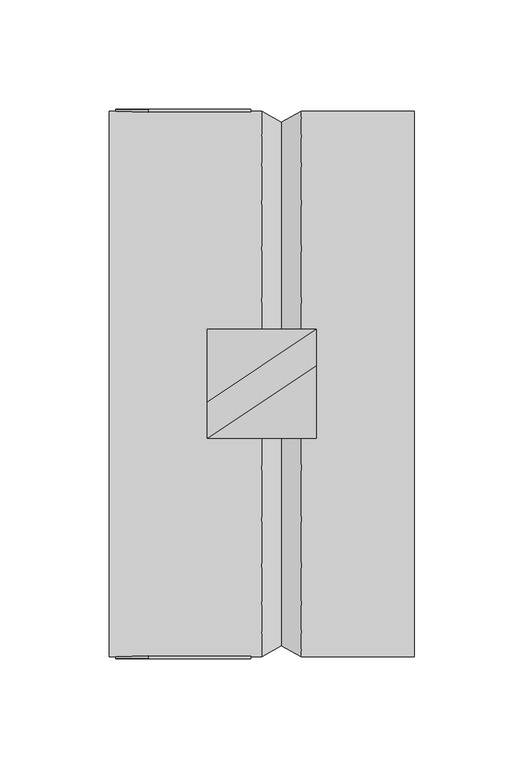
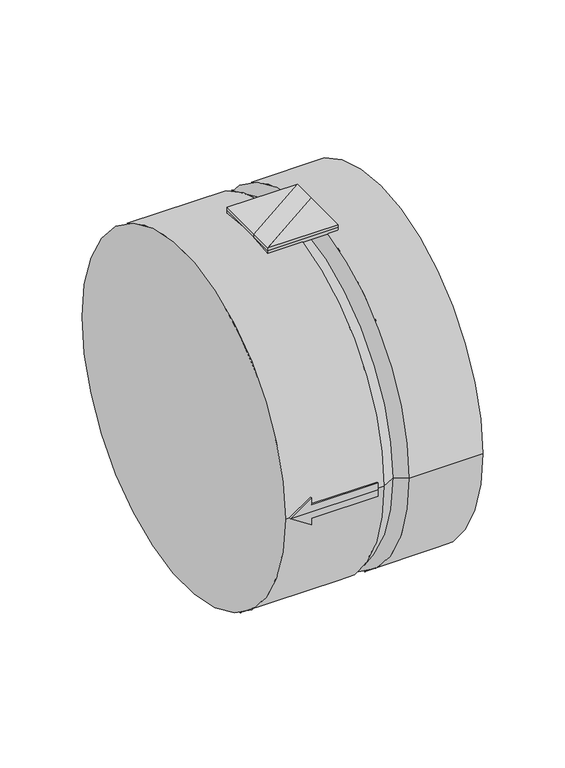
"""IFC4 building model written with IfcOpenShell, lengths in millimetres: damper geometry, KORF_Клапан_Обратный_Круглый_KOK : КОK 250."""

from ifc_helpers import new_model, si_unit, frame, origin, place, context, project, spatial, polyline, circle_curve, ellipse_curve, outline, extrude, source, transform, mapped, element, save
from ifc_brep_helpers import plane_surface, cylinder_surface, revolved_surface, advanced_brep


def damper_da60aa00(model_context):
    return source(origin(), model_context, "Body", "SolidModel", [
        extrude(outline(polyline([(95.0, 25.0), (95.0, 8.3333333), (45.0, -25.0), (45.0, -8.3333333), (95.0, 25.0)])), frame((0.0, 0.0, 125.0), z_axis=(0.0, 0.0, 1.0), x_axis=(1.0, 0.0, 0.0)), (0.0, 0.0, 1.0), 2.0),
        extrude(outline(polyline([(95.0, 25.0), (45.0, -8.3333333), (45.0, 25.0), (95.0, 25.0)])), frame((0.0, 0.0, 125.0), z_axis=(0.0, 0.0, 1.0), x_axis=(1.0, 0.0, 0.0)), (0.0, 0.0, 1.0), 2.0),
        extrude(outline(polyline([(45.0, -25.0), (95.0, 8.3333333), (95.0, -25.0), (45.0, -25.0)])), frame((0.0, 0.0, 125.0), z_axis=(0.0, 0.0, 1.0), x_axis=(1.0, 0.0, 0.0)), (0.0, 0.0, 1.0), 2.0),
        advanced_brep(
        [(18.0, -124.5993579, 10.0), (3.0, -125.0, 0.0), (3.0, -126.0, 0.0), (18.0, -125.6025477, 10.0), (18.0, -124.5993579, -10.0), (18.0, -125.6025477, -10.0), (18.0, -124.89996, -5.0), (18.0, -125.9007546, -5.0), (65.0, -124.89996, -5.0), (65.0, -125.9007546, -5.0), (65.0, -125.0, 0.0), (65.0, -124.89996, 5.0), (65.0, -125.9007546, 5.0), (65.0, -126.0, 0.0), (18.0, -124.89996, 5.0), (18.0, -125.9007546, 5.0)],
        [
            (0, 1, ellipse_curve(frame((3.0, 0.0, 0.0), z_axis=(0.5547001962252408, 0.0, -0.832050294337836), x_axis=(0.8320502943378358, 0.0, 0.5547001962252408)), 225.3469547, 125.0)),
            (1, 2),
            (2, 3, ellipse_curve(frame((3.0, 0.0, 0.0), z_axis=(-0.5547001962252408, 0.0, 0.832050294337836), x_axis=(-0.8320502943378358, 0.0, -0.5547001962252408)), 227.1497304, 126.0)),
            (3, 0),
            (1, 4, ellipse_curve(frame((3.0, 0.0, 0.0), z_axis=(0.5547001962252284, 0.0, 0.8320502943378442), x_axis=(0.8320502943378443, 0.0, -0.5547001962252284)), 225.3469547, 125.0)),
            (4, 5),
            (5, 2, ellipse_curve(frame((3.0, 0.0, 0.0), z_axis=(-0.5547001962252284, 0.0, -0.8320502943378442), x_axis=(-0.8320502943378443, 0.0, 0.5547001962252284)), 227.1497304, 126.0)),
            (4, 6, circle_curve(frame((18.0, 0.0, 0.0), z_axis=(-1.0, 0.0, 0.0), x_axis=(0.0, 1.0, 0.0)), 125.0)),
            (6, 7),
            (7, 5, circle_curve(frame((18.0, 0.0, 0.0), z_axis=(1.0, 0.0, 0.0), x_axis=(0.0, 1.0, 0.0)), 126.0)),
            (6, 8),
            (8, 9),
            (9, 7),
            (8, 10, circle_curve(frame((65.0, 0.0, 0.0), z_axis=(-1.0, 0.0, 0.0), x_axis=(0.0, 1.0, 0.0)), 125.0)),
            (10, 11, circle_curve(frame((65.0, 0.0, 0.0), z_axis=(-1.0, 0.0, 0.0), x_axis=(0.0, 1.0, 0.0)), 125.0)),
            (11, 12),
            (12, 13, circle_curve(frame((65.0, 0.0, 0.0), z_axis=(1.0, 0.0, 0.0), x_axis=(0.0, 1.0, 0.0)), 126.0)),
            (13, 9, circle_curve(frame((65.0, 0.0, 0.0), z_axis=(1.0, 0.0, 0.0), x_axis=(0.0, 1.0, 0.0)), 126.0)),
            (11, 14),
            (14, 15),
            (15, 12),
            (14, 0, circle_curve(frame((18.0, 0.0, 0.0), z_axis=(-1.0, 0.0, 0.0), x_axis=(0.0, 1.0, 0.0)), 125.0)),
            (3, 15, circle_curve(frame((18.0, 0.0, 0.0), z_axis=(1.0, 0.0, 0.0), x_axis=(0.0, 1.0, 0.0)), 126.0)),
            (1, 10),
            (2, 13),
        ],
        [
            plane_surface(frame((18.0, -127.0, 10.0), z_axis=(-0.5547001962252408, 0.0, 0.832050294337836), x_axis=(0.0, 1.0, 0.0))),
            plane_surface(frame((3.0, -127.0, 0.0), z_axis=(-0.5547001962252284, 0.0, -0.8320502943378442), x_axis=(0.0, 1.0, 0.0))),
            plane_surface(frame((18.0, -127.0, -10.0), z_axis=(1.0, 0.0, 0.0), x_axis=(0.0, 1.0, 0.0))),
            plane_surface(frame((18.0, -127.0, -5.0), z_axis=(0.0, 0.0, -1.0), x_axis=(0.0, 1.0, 0.0))),
            plane_surface(frame((65.0, -127.0, -5.0), z_axis=(1.0, 0.0, 0.0), x_axis=(0.0, 1.0, 0.0))),
            plane_surface(frame((65.0, -127.0, 5.0), z_axis=(0.0, 0.0, 1.0), x_axis=(0.0, 1.0, 0.0))),
            plane_surface(frame((18.0, -127.0, 5.0), z_axis=(1.0, 0.0, 0.0), x_axis=(0.0, 1.0, 0.0))),
            revolved_surface(polyline([(190.49999998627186, 125.0, 0.0), (-184.49999998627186, 125.0, 0.0)]), (0.0, 0.0, 0.0), (1.0, 0.0, 0.0)),
            revolved_surface(polyline([(190.49999998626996, 125.0, 0.0), (-184.49999998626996, 125.0, 0.0)]), (0.0, 0.0, 0.0), (1.0, 0.0, 0.0)),
            cylinder_surface(frame((0.0, 0.0, 0.0), z_axis=(-1.0, 0.0, 0.0), x_axis=(0.0, 1.0, 0.0)), 126.0),
        ],
        [
            (0, [[1, 2, 3, 4]]),
            (1, [[5, 6, 7, -2]]),
            (2, [[8, 9, 10, -6]]),
            (3, [[11, 12, 13, -9]]),
            (4, [[14, 15, 16, 17, 18, -12]]),
            (5, [[19, 20, 21, -16]]),
            (6, [[22, -4, 23, -20]]),
            (7, [[24, -14, -11, -8, -5]]),
            (8, [[-24, -1, -22, -19, -15]]),
            (9, [[25, -17, -21, -23, -3]]),
            (9, [[-25, -7, -10, -13, -18]]),
        ],
    ),
        advanced_brep(
        [(3.0, 125.0, 0.0), (18.0, 124.5993579, 10.0), (18.0, 125.6025477, 10.0), (3.0, 126.0, 0.0), (18.0, 124.5993579, -10.0), (18.0, 125.6025477, -10.0), (18.0, 124.89996, -5.0), (18.0, 125.9007546, -5.0), (65.0, 124.89996, -5.0), (65.0, 125.9007546, -5.0), (65.0, 125.0, 0.0), (65.0, 126.0, 0.0), (65.0, 125.9007546, 5.0), (65.0, 124.89996, 5.0), (18.0, 124.89996, 5.0), (18.0, 125.9007546, 5.0)],
        [
            (0, 1, ellipse_curve(frame((3.0, 0.0, 0.0), z_axis=(0.5547001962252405, 0.0, -0.8320502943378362), x_axis=(0.8320502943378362, 0.0, 0.5547001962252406)), 225.3469547, 125.0)),
            (1, 2),
            (2, 3, ellipse_curve(frame((3.0, 0.0, 0.0), z_axis=(-0.5547001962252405, 0.0, 0.8320502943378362), x_axis=(-0.8320502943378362, 0.0, -0.5547001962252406)), 227.1497304, 126.0)),
            (3, 0),
            (4, 0, ellipse_curve(frame((3.0, 0.0, 0.0), z_axis=(0.554700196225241, 0.0, 0.8320502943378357), x_axis=(0.8320502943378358, 0.0, -0.554700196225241)), 225.3469547, 125.0)),
            (3, 5, ellipse_curve(frame((3.0, 0.0, 0.0), z_axis=(-0.554700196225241, 0.0, -0.8320502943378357), x_axis=(-0.8320502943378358, 0.0, 0.554700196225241)), 227.1497304, 126.0)),
            (5, 4),
            (6, 4, circle_curve(frame((18.0, 0.0, 0.0), z_axis=(-1.0, 0.0, 0.0), x_axis=(0.0, 1.0, 0.0)), 125.0)),
            (5, 7, circle_curve(frame((18.0, 0.0, 0.0), z_axis=(1.0, 0.0, 0.0), x_axis=(0.0, 1.0, 0.0)), 126.0)),
            (7, 6),
            (8, 6),
            (7, 9),
            (9, 8),
            (10, 8, circle_curve(frame((65.0, 0.0, 0.0), z_axis=(-1.0, 0.0, 0.0), x_axis=(0.0, 1.0, 0.0)), 125.0)),
            (9, 11, circle_curve(frame((65.0, 0.0, 0.0), z_axis=(1.0, 0.0, 0.0), x_axis=(0.0, 1.0, 0.0)), 126.0)),
            (11, 12, circle_curve(frame((65.0, 0.0, 0.0), z_axis=(1.0, 0.0, 0.0), x_axis=(0.0, 1.0, 0.0)), 126.0)),
            (12, 13),
            (13, 10, circle_curve(frame((65.0, 0.0, 0.0), z_axis=(-1.0, 0.0, 0.0), x_axis=(0.0, 1.0, 0.0)), 125.0)),
            (14, 13),
            (12, 15),
            (15, 14),
            (1, 14, circle_curve(frame((18.0, 0.0, 0.0), z_axis=(-1.0, 0.0, 0.0), x_axis=(0.0, 1.0, 0.0)), 125.0)),
            (15, 2, circle_curve(frame((18.0, 0.0, 0.0), z_axis=(1.0, 0.0, 0.0), x_axis=(0.0, 1.0, 0.0)), 126.0)),
            (10, 0),
            (11, 3),
        ],
        [
            plane_surface(frame((18.0, 123.0, 10.0), z_axis=(-0.5547001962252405, 0.0, 0.8320502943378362), x_axis=(0.0, 1.0, 0.0))),
            plane_surface(frame((3.0, 123.0, 0.0), z_axis=(-0.554700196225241, 0.0, -0.8320502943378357), x_axis=(0.0, 1.0, 0.0))),
            plane_surface(frame((18.0, 123.0, -10.0), z_axis=(1.0, 0.0, 0.0), x_axis=(0.0, 1.0, 0.0))),
            plane_surface(frame((18.0, 123.0, -5.0), z_axis=(0.0, 0.0, -1.0), x_axis=(0.0, 1.0, 0.0))),
            plane_surface(frame((65.0, 123.0, -5.0), z_axis=(1.0, 0.0, 0.0), x_axis=(0.0, 1.0, 0.0))),
            plane_surface(frame((65.0, 123.0, 5.0), z_axis=(0.0, 0.0, 1.0), x_axis=(0.0, 1.0, 0.0))),
            plane_surface(frame((18.0, 123.0, 5.0), z_axis=(1.0, 0.0, 0.0), x_axis=(0.0, 1.0, 0.0))),
            revolved_surface(polyline([(190.49999998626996, 125.0, 0.0), (-184.49999998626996, 125.0, 0.0)]), (0.0, 0.0, 0.0), (1.0, 0.0, 0.0)),
            revolved_surface(polyline([(190.49999998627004, 125.0, 0.0), (-184.49999998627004, 125.0, 0.0)]), (0.0, 0.0, 0.0), (1.0, 0.0, 0.0)),
            cylinder_surface(frame((0.0, 0.0, 0.0), z_axis=(-1.0, 0.0, 0.0), x_axis=(0.0, 1.0, 0.0)), 126.0),
        ],
        [
            (0, [[1, 2, 3, 4]]),
            (1, [[5, -4, 6, 7]]),
            (2, [[8, -7, 9, 10]]),
            (3, [[11, -10, 12, 13]]),
            (4, [[14, -13, 15, 16, 17, 18]]),
            (5, [[19, -17, 20, 21]]),
            (6, [[22, -21, 23, -2]]),
            (7, [[24, -5, -8, -11, -14]]),
            (8, [[-24, -18, -19, -22, -1]]),
            (9, [[25, -3, -23, -20, -16]]),
            (9, [[-25, -15, -12, -9, -6]]),
        ],
    ),
        advanced_brep(
        [(140.0, -125.0, 0.0), (140.0, 125.0, 0.0), (0.0, -125.0, 0.0), (0.0, 125.0, 0.0), (88.0, -125.0, 0.0), (88.0, 125.0, 0.0), (70.0, 125.0, 0.0), (70.0, -125.0, 0.0), (79.0, 120.0, 0.0), (79.0, -120.0, 0.0)],
        [
            (0, 1, circle_curve(frame((140.0, 0.0, 0.0), z_axis=(1.0, 0.0, 0.0), x_axis=(0.0, 1.0, 0.0)), 125.0)),
            (1, 0, circle_curve(frame((140.0, 0.0, 0.0), z_axis=(1.0, 0.0, 0.0), x_axis=(0.0, 1.0, 0.0)), 125.0)),
            (2, 3, circle_curve(frame((0.0, 0.0, 0.0), z_axis=(-1.0, 0.0, 0.0), x_axis=(0.0, 1.0, 0.0)), 125.0)),
            (3, 2, circle_curve(frame((0.0, 0.0, 0.0), z_axis=(-1.0, 0.0, 0.0), x_axis=(0.0, 1.0, 0.0)), 125.0)),
            (0, 4),
            (4, 5, circle_curve(frame((88.0, 0.0, 0.0), z_axis=(1.0, 0.0, 0.0), x_axis=(0.0, 1.0, 0.0)), 125.0)),
            (5, 1),
            (3, 6),
            (6, 7, circle_curve(frame((70.0, 0.0, 0.0), z_axis=(-1.0, 0.0, 0.0), x_axis=(0.0, 1.0, 0.0)), 125.0)),
            (7, 2),
            (5, 4, circle_curve(frame((88.0, 0.0, 0.0), z_axis=(1.0, 0.0, 0.0), x_axis=(0.0, 1.0, 0.0)), 125.0)),
            (7, 6, circle_curve(frame((70.0, 0.0, 0.0), z_axis=(-1.0, 0.0, 0.0), x_axis=(0.0, 1.0, 0.0)), 125.0)),
            (6, 8),
            (8, 9, circle_curve(frame((79.0, 0.0, 0.0), z_axis=(-1.0, 0.0, 0.0), x_axis=(0.0, -1.0, 0.0)), 120.0)),
            (9, 7),
            (8, 5),
            (4, 9),
            (9, 8, circle_curve(frame((79.0, 0.0, 0.0), z_axis=(-1.0, 0.0, 0.0), x_axis=(0.0, 1.0, 0.0)), 120.0)),
        ],
        [
            plane_surface(frame((140.0, 125.0, 0.0), z_axis=(1.0, 0.0, 0.0), x_axis=(0.0, 0.0, 1.0))),
            plane_surface(frame((0.0, 125.0, 0.0), z_axis=(-1.0, 0.0, 0.0), x_axis=(0.0, 0.0, -1.0))),
            cylinder_surface(frame((0.0, 0.0, 0.0), z_axis=(1.0, 0.0, 0.0), x_axis=(0.0, 1.0, 0.0)), 125.0),
            revolved_surface(polyline([(70.0, -125.0, 0.0), (79.0, -120.0, 0.0)]), (0.0, 0.0, 0.0), (1.0, 0.0, 0.0)),
            revolved_surface(polyline([(79.0, -120.0, 0.0), (88.0, -125.0, 0.0)]), (0.0, 0.0, 0.0), (1.0, 0.0, 0.0)),
            revolved_surface(polyline([(70.0, 125.0, 0.0), (79.0, 120.0, 0.0)]), (0.0, 0.0, 0.0), (1.0, 0.0, 0.0)),
            revolved_surface(polyline([(79.0, 120.0, 0.0), (88.0, 125.0, 0.0)]), (0.0, 0.0, 0.0), (1.0, 0.0, 0.0)),
        ],
        [
            (0, [[1, 2]]),
            (1, [[3, 4]]),
            (2, [[-1, 5, 6, 7]]),
            (2, [[-4, 8, 9, 10]]),
            (2, [[-2, -7, 11, -5]]),
            (2, [[-3, -10, 12, -8]]),
            (3, [[13, 14, 15, -9]]),
            (4, [[-14, 16, -6, 17]]),
            (5, [[-13, -12, -15, 18]]),
            (6, [[-16, -18, -17, -11]]),
        ],
    ),
        advanced_brep(
        [(45.0, 25.0, 122.4744871), (95.0, 25.0, 122.4744871), (95.0, 0.0, 125.0), (95.0, -25.0, 122.4744871), (45.0, -25.0, 122.4744871), (45.0, 0.0, 125.0), (95.0, 25.0, 125.0), (45.0, 25.0, 125.0), (45.0, -25.0, 125.0), (95.0, -25.0, 125.0)],
        [
            (0, 1),
            (1, 2, circle_curve(frame((95.0, 0.0, 0.0), z_axis=(1.0, 0.0, 0.0), x_axis=(0.0, 1.0, 0.0)), 125.0)),
            (2, 3, circle_curve(frame((95.0, 0.0, 0.0), z_axis=(1.0, 0.0, 0.0), x_axis=(0.0, 1.0, 0.0)), 125.0)),
            (3, 4),
            (4, 5, circle_curve(frame((45.0, 0.0, 0.0), z_axis=(-1.0, 0.0, 0.0), x_axis=(0.0, 1.0, 0.0)), 125.0)),
            (5, 0, circle_curve(frame((45.0, 0.0, 0.0), z_axis=(-1.0, 0.0, 0.0), x_axis=(0.0, 1.0, 0.0)), 125.0)),
            (6, 7),
            (7, 5),
            (5, 8),
            (8, 9),
            (9, 2),
            (2, 6),
            (6, 1),
            (0, 7),
            (4, 8),
            (3, 9),
        ],
        [
            revolved_surface(polyline([(95.0, 125.0, 0.0), (45.0, 125.0, 0.0)]), (0.0, 0.0, 0.0), (1.0, 0.0, 0.0)),
            plane_surface(frame((45.0, 25.0, 125.0), z_axis=(0.0, 0.0, 1.0), x_axis=(-1.0, 0.0, 0.0))),
            plane_surface(frame((95.0, 25.0, 125.0), z_axis=(0.0, 1.0, 0.0), x_axis=(0.0, 0.0, -1.0))),
            plane_surface(frame((45.0, 25.0, 125.0), z_axis=(-1.0, 0.0, 0.0), x_axis=(0.0, 0.0, -1.0))),
            plane_surface(frame((45.0, -25.0, 125.0), z_axis=(0.0, -1.0, 0.0), x_axis=(0.0, 0.0, -1.0))),
            plane_surface(frame((95.0, -25.0, 125.0), z_axis=(1.0, 0.0, 0.0), x_axis=(0.0, 0.0, -1.0))),
        ],
        [
            (0, [[1, 2, 3, 4, 5, 6]]),
            (1, [[7, 8, 9, 10, 11, 12]]),
            (2, [[-7, 13, -1, 14]]),
            (3, [[-8, -14, -6]]),
            (3, [[-9, -5, 15]]),
            (4, [[-10, -15, -4, 16]]),
            (5, [[-11, -16, -3]]),
            (5, [[-12, -2, -13]]),
        ],
    ),
    ])


if __name__ == "__main__":
    model = new_model("IFC4")
    model_context = context("Model", 3, world=origin())
    ifc_project = project(units=[si_unit("LENGTHUNIT", "METRE", prefix="MILLI")], contexts=[model_context])
    site = spatial("IfcSite", under=ifc_project)
    building = spatial("IfcBuilding", under=site)
    placement = place(None, origin())
    damper_shape = damper_da60aa00(model_context)
    element("IfcDamper", 1, ObjectType="KORF_Клапан_Обратный_Круглый_KOK : КОK 250", at=placement, inside=building, context=model_context, shape_type="MappedRepresentation", body=[
        mapped(damper_shape, transform((0.0, 0.0, 0.0), x_axis=(1.0, 0.0, 0.0), y_axis=(0.0, 1.0, 0.0), z_axis=(0.0, 0.0, 1.0))),
    ])
    save(model, "model.ifc")
